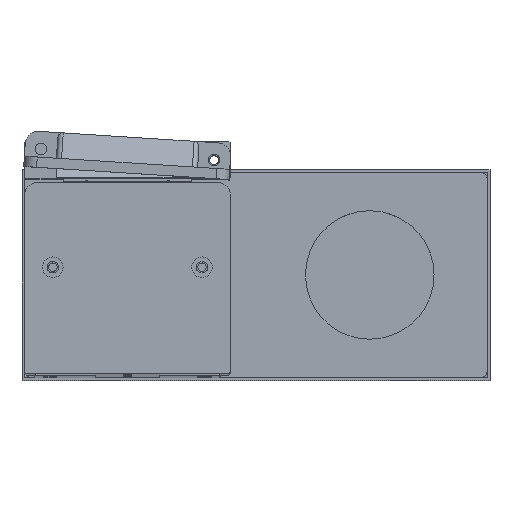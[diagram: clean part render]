
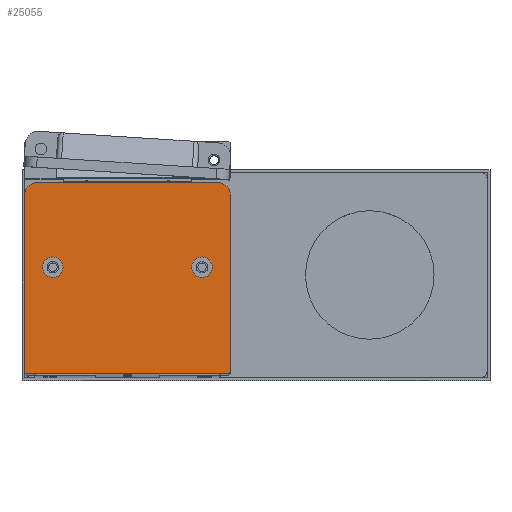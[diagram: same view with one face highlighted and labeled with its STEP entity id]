
A CAD part, top view. The second image highlights one B-rep face of the part: STEP entity #25055.
In plain terms, the highlighted planar face has unit normal (0, 0, 1).
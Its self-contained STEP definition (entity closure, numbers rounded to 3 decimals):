
#138 = ORIENTED_EDGE ( 'NONE', *, *, #9135, .T. ) ;
#731 = DIRECTION ( 'NONE',  ( 0., 0., -1. ) ) ;
#919 = ORIENTED_EDGE ( 'NONE', *, *, #4249, .F. ) ;
#923 = ORIENTED_EDGE ( 'NONE', *, *, #12973, .T. ) ;
#1012 = VECTOR ( 'NONE', #13394, 1000. ) ;
#1538 = LINE ( 'NONE', #21242, #22435 ) ;
#1650 = LINE ( 'NONE', #19426, #1012 ) ;
#1651 = EDGE_CURVE ( 'NONE', #23487, #14993, #3435, .T. ) ;
#1967 = AXIS2_PLACEMENT_3D ( 'NONE', #23028, #10904, #25029 ) ;
#2025 = AXIS2_PLACEMENT_3D ( 'NONE', #3011, #17179, #5040 ) ;
#2045 = CARTESIAN_POINT ( 'NONE',  ( 15., 41.5, 10. ) ) ;
#2555 = VECTOR ( 'NONE', #6107, 1000. ) ;
#2860 = CARTESIAN_POINT ( 'NONE',  ( 0., 1., 10. ) ) ;
#2878 = FACE_BOUND ( 'NONE', #19681, .T. ) ;
#3011 = CARTESIAN_POINT ( 'NONE',  ( 1., 1., 10. ) ) ;
#3435 = CIRCLE ( 'NONE', #15531, 4. ) ;
#4085 = VERTEX_POINT ( 'NONE', #16095 ) ;
#4210 = CARTESIAN_POINT ( 'NONE',  ( 73., 41.5, 10. ) ) ;
#4249 = EDGE_CURVE ( 'NONE', #14993, #23487, #8269, .T. ) ;
#4518 = CARTESIAN_POINT ( 'NONE',  ( 11., 41.5, 10. ) ) ;
#4722 = CIRCLE ( 'NONE', #16435, 4. ) ;
#4874 = CARTESIAN_POINT ( 'NONE',  ( 65., 41.5, 10. ) ) ;
#4942 = EDGE_CURVE ( 'NONE', #26020, #9670, #4722, .T. ) ;
#5040 = DIRECTION ( 'NONE',  ( -1., 0., 0. ) ) ;
#5642 = CARTESIAN_POINT ( 'NONE',  ( 5., 69.5, 10. ) ) ;
#5691 = EDGE_CURVE ( 'NONE', #9670, #26020, #25544, .T. ) ;
#6059 = CARTESIAN_POINT ( 'NONE',  ( 7., 41.5, 10. ) ) ;
#6064 = AXIS2_PLACEMENT_3D ( 'NONE', #5642, #19833, #7701 ) ;
#6107 = DIRECTION ( 'NONE',  ( 1., 0., 0. ) ) ;
#6549 = DIRECTION ( 'NONE',  ( 1., 0., 0. ) ) ;
#6695 = AXIS2_PLACEMENT_3D ( 'NONE', #16828, #731, #14867 ) ;
#7654 = CARTESIAN_POINT ( 'NONE',  ( 79., 0., 10. ) ) ;
#7701 = DIRECTION ( 'NONE',  ( -1., 0., 0. ) ) ;
#8245 = VERTEX_POINT ( 'NONE', #24573 ) ;
#8269 = CIRCLE ( 'NONE', #8470, 4. ) ;
#8470 = AXIS2_PLACEMENT_3D ( 'NONE', #22737, #10601, #24744 ) ;
#8884 = CIRCLE ( 'NONE', #1967, 1. ) ;
#8900 = CARTESIAN_POINT ( 'NONE',  ( 75., 69.5, 10. ) ) ;
#8969 = DIRECTION ( 'NONE',  ( 0., -1., 0. ) ) ;
#9100 = DIRECTION ( 'NONE',  ( -1., 0., 0. ) ) ;
#9135 = EDGE_CURVE ( 'NONE', #22664, #18378, #24713, .T. ) ;
#9266 = EDGE_CURVE ( 'NONE', #18378, #8245, #8884, .T. ) ;
#9310 = LINE ( 'NONE', #23134, #15322 ) ;
#9670 = VERTEX_POINT ( 'NONE', #2045 ) ;
#10261 = CIRCLE ( 'NONE', #13285, 5. ) ;
#10601 = DIRECTION ( 'NONE',  ( 0., 0., 1. ) ) ;
#10809 = PLANE ( 'NONE',  #6695 ) ;
#10904 = DIRECTION ( 'NONE',  ( 0., 0., 1. ) ) ;
#10944 = DIRECTION ( 'NONE',  ( -1., 0., 0. ) ) ;
#10982 = CARTESIAN_POINT ( 'NONE',  ( 11., 41.5, 10. ) ) ;
#11156 = CARTESIAN_POINT ( 'NONE',  ( 1., 0., 10. ) ) ;
#11209 = ORIENTED_EDGE ( 'NONE', *, *, #19329, .T. ) ;
#11270 = ORIENTED_EDGE ( 'NONE', *, *, #1651, .F. ) ;
#11298 = CARTESIAN_POINT ( 'NONE',  ( 80., 69.5, 10. ) ) ;
#12089 = EDGE_CURVE ( 'NONE', #24767, #4085, #16651, .T. ) ;
#12226 = EDGE_LOOP ( 'NONE', ( #15678, #14948 ) ) ;
#12861 = CIRCLE ( 'NONE', #2025, 1. ) ;
#12973 = EDGE_CURVE ( 'NONE', #4085, #20127, #9310, .T. ) ;
#13018 = FACE_BOUND ( 'NONE', #12226, .T. ) ;
#13028 = DIRECTION ( 'NONE',  ( 1., 0., 0. ) ) ;
#13093 = ORIENTED_EDGE ( 'NONE', *, *, #24732, .T. ) ;
#13285 = AXIS2_PLACEMENT_3D ( 'NONE', #8900, #23064, #10944 ) ;
#13394 = DIRECTION ( 'NONE',  ( 0., 1., 0. ) ) ;
#14287 = VERTEX_POINT ( 'NONE', #21485 ) ;
#14867 = DIRECTION ( 'NONE',  ( -1., 0., 0. ) ) ;
#14948 = ORIENTED_EDGE ( 'NONE', *, *, #4942, .F. ) ;
#14993 = VERTEX_POINT ( 'NONE', #4874 ) ;
#15322 = VECTOR ( 'NONE', #8969, 1000. ) ;
#15356 = EDGE_LOOP ( 'NONE', ( #923, #23658, #138, #26030, #13093, #24927, #11209, #23635 ) ) ;
#15531 = AXIS2_PLACEMENT_3D ( 'NONE', #20259, #17431, #25607 ) ;
#15678 = ORIENTED_EDGE ( 'NONE', *, *, #5691, .F. ) ;
#16054 = EDGE_CURVE ( 'NONE', #25810, #14287, #10261, .T. ) ;
#16095 = CARTESIAN_POINT ( 'NONE',  ( 0., 69.5, 10. ) ) ;
#16179 = FACE_OUTER_BOUND ( 'NONE', #15356, .T. ) ;
#16435 = AXIS2_PLACEMENT_3D ( 'NONE', #10982, #25106, #13028 ) ;
#16651 = CIRCLE ( 'NONE', #6064, 5. ) ;
#16828 = CARTESIAN_POINT ( 'NONE',  ( 0., 0., 10. ) ) ;
#17179 = DIRECTION ( 'NONE',  ( 0., 0., 1. ) ) ;
#17431 = DIRECTION ( 'NONE',  ( 0., 0., 1. ) ) ;
#18378 = VERTEX_POINT ( 'NONE', #7654 ) ;
#18688 = DIRECTION ( 'NONE',  ( 0., 0., 1. ) ) ;
#19034 = AXIS2_PLACEMENT_3D ( 'NONE', #4518, #18688, #6549 ) ;
#19329 = EDGE_CURVE ( 'NONE', #14287, #24767, #1538, .T. ) ;
#19426 = CARTESIAN_POINT ( 'NONE',  ( 80., 0., 10. ) ) ;
#19681 = EDGE_LOOP ( 'NONE', ( #11270, #919 ) ) ;
#19833 = DIRECTION ( 'NONE',  ( 0., 0., 1. ) ) ;
#20127 = VERTEX_POINT ( 'NONE', #2860 ) ;
#20259 = CARTESIAN_POINT ( 'NONE',  ( 69., 41.5, 10. ) ) ;
#20292 = CARTESIAN_POINT ( 'NONE',  ( 0., 0., 10. ) ) ;
#20641 = EDGE_CURVE ( 'NONE', #20127, #22664, #12861, .T. ) ;
#21242 = CARTESIAN_POINT ( 'NONE',  ( 0., 74.5, 10. ) ) ;
#21485 = CARTESIAN_POINT ( 'NONE',  ( 75., 74.5, 10. ) ) ;
#22435 = VECTOR ( 'NONE', #9100, 1000. ) ;
#22664 = VERTEX_POINT ( 'NONE', #11156 ) ;
#22737 = CARTESIAN_POINT ( 'NONE',  ( 69., 41.5, 10. ) ) ;
#23028 = CARTESIAN_POINT ( 'NONE',  ( 79., 1., 10. ) ) ;
#23064 = DIRECTION ( 'NONE',  ( 0., 0., 1. ) ) ;
#23134 = CARTESIAN_POINT ( 'NONE',  ( 0., 0., 10. ) ) ;
#23487 = VERTEX_POINT ( 'NONE', #4210 ) ;
#23635 = ORIENTED_EDGE ( 'NONE', *, *, #12089, .T. ) ;
#23658 = ORIENTED_EDGE ( 'NONE', *, *, #20641, .T. ) ;
#24573 = CARTESIAN_POINT ( 'NONE',  ( 80., 1., 10. ) ) ;
#24713 = LINE ( 'NONE', #20292, #2555 ) ;
#24732 = EDGE_CURVE ( 'NONE', #8245, #25810, #1650, .T. ) ;
#24744 = DIRECTION ( 'NONE',  ( 1., 0., 0. ) ) ;
#24767 = VERTEX_POINT ( 'NONE', #25658 ) ;
#24927 = ORIENTED_EDGE ( 'NONE', *, *, #16054, .T. ) ;
#25029 = DIRECTION ( 'NONE',  ( -1., 0., 0. ) ) ;
#25055 = ADVANCED_FACE ( 'NONE', ( #2878, #13018, #16179 ), #10809, .F. ) ;
#25106 = DIRECTION ( 'NONE',  ( 0., 0., 1. ) ) ;
#25544 = CIRCLE ( 'NONE', #19034, 4. ) ;
#25607 = DIRECTION ( 'NONE',  ( 1., 0., 0. ) ) ;
#25658 = CARTESIAN_POINT ( 'NONE',  ( 5., 74.5, 10. ) ) ;
#25810 = VERTEX_POINT ( 'NONE', #11298 ) ;
#26020 = VERTEX_POINT ( 'NONE', #6059 ) ;
#26030 = ORIENTED_EDGE ( 'NONE', *, *, #9266, .T. ) ;
